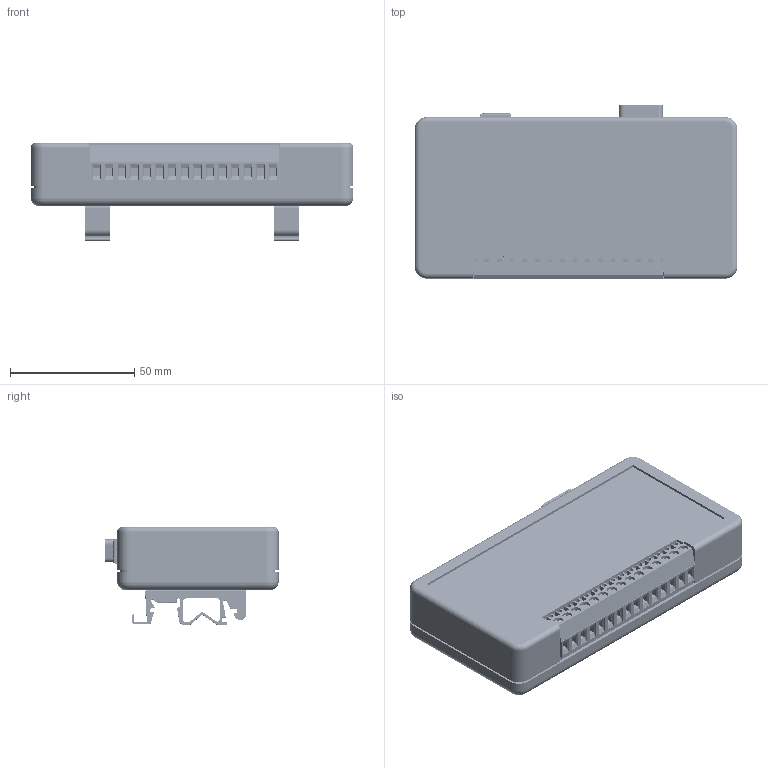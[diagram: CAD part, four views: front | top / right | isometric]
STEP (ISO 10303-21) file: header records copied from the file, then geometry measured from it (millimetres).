
FILE_DESCRIPTION (( 'STEP AP214' ), '1' );
FILE_NAME ('ADU Serial, DIN.STEP', '2018-09-24T19:30:32', ( '' ), ( '' ), 'SwSTEP 2.0', 'SolidWorks 2014', '' );
FILE_SCHEMA (( 'AUTOMOTIVE_DESIGN' ));
Length unit declared in the file: millimetre
Products named in the file (12): 91420A127_METRIC FLAT HEAD PHILLIPS MACHINE SCREW_91420A127; 90272A144_ZINC-PLTD STL PAN HEAD PHILLIPS MACHINE SCREW_90272A144; 1427DINCLIP; 94510A240_BRASS SCREW-TO-EXPAND INSERTS FOR PLASTICS_94510A240; ADU Top; USB; 182-009-113; Wieland_25.163.0353.0_CAD STEP data; 90380A106_PHILLIPS THREAD-FORMING SCREW FOR PLASTIC_90380A106; PCB; ADU Base; ADU Serial, DIN
Assembly tree (28 placements, depth 2):
  ADU Serial, DIN
    ADU Base
    PCB
    90380A106_PHILLIPS THREAD-FORMING SCREW FOR PLASTIC_90380A106  x4
    Wieland_25.163.0353.0_CAD STEP data  x5
    182-009-113
    USB
    ADU Top
    94510A240_BRASS SCREW-TO-EXPAND INSERTS FOR PLASTICS_94510A240  x4
    1427DINCLIP  x2
    90272A144_ZINC-PLTD STL PAN HEAD PHILLIPS MACHINE SCREW_90272A144  x4
    91420A127_METRIC FLAT HEAD PHILLIPS MACHINE SCREW_91420A127  x4
Bounding box: 130 x 70.35 x 39.5 mm (x, y, z)
Volume: 86674.7 mm3; surface area: 85205 mm2
Topology: 27 solids, 28 shells, 7731 faces, 18656 edges, 11055 vertices
Faces by surface type: bspline 3286, cylinder 2219, plane 1848, cone 314, torus 48, sphere 16
Entity records: 149435 total; most frequent: CARTESIAN_POINT 81488, ORIENTED_EDGE 14654, DIRECTION 9606, EDGE_CURVE 7331, VERTEX_POINT 4452, VECTOR 3462, LINE 3462, EDGE_LOOP 3099
